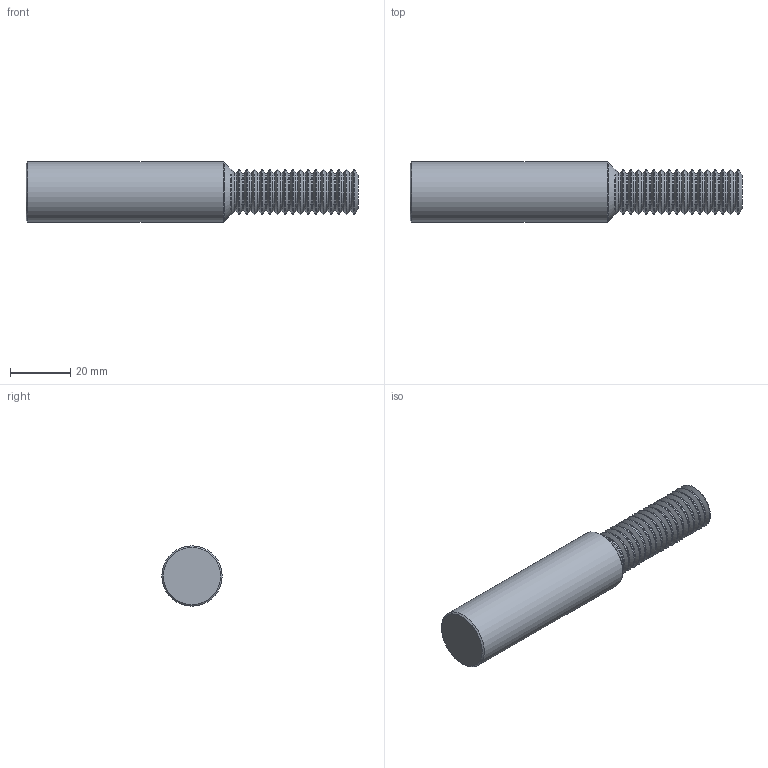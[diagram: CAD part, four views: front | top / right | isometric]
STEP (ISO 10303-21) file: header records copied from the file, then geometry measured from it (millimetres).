
FILE_DESCRIPTION(/* description */ (''),/* implementation_level */ '2;1');
FILE_NAME(/* name */ '00036548-TDM',/* time_stamp */ '2024-02-20T14:37:48+01:00',/* author */ (''),/* organization */ (''),/* preprocessor_version */ 'ST-DEVELOPER v16.5',/* originating_system */ 'HiCAD 2017 2201.0 Build 268',/* authorisation */ '');
FILE_SCHEMA (('AUTOMOTIVE_DESIGN { 1 0 10303 214 1 1 1 1 }'));
Length unit declared in the file: millimetre
Products named in the file (3): Root; ROTATIONSTEIL_0
Assembly tree (2 placements, depth 3):
  Root
    ROTATIONSTEIL_0
      ROTATIONSTEIL_0
Bounding box: 110 x 20 x 20 mm (x, y, z)
Volume: 27212.1 mm3; surface area: 8201.9 mm2
Topology: 2 solids, 2 shells, 106 faces, 209 edges, 107 vertices
Faces by surface type: cone 36, cylinder 34, torus 32, plane 4
Full cylindrical faces by diameter (mm): 12.43 x16, 15.2 x17, 20 x1
Entity records: 3204 total; most frequent: DIRECTION 428, CARTESIAN_POINT 318, AXIS2_PLACEMENT_3D 214, PRESENTATION_STYLE_ASSIGNMENT 210, COLOUR_RGB 210, DRAUGHTING_PRE_DEFINED_CURVE_FONT 208, CURVE_STYLE 208, OVER_RIDING_STYLED_ITEM 208
